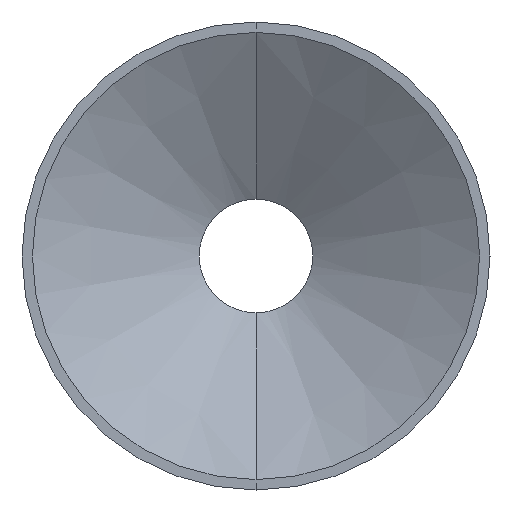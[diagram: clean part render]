
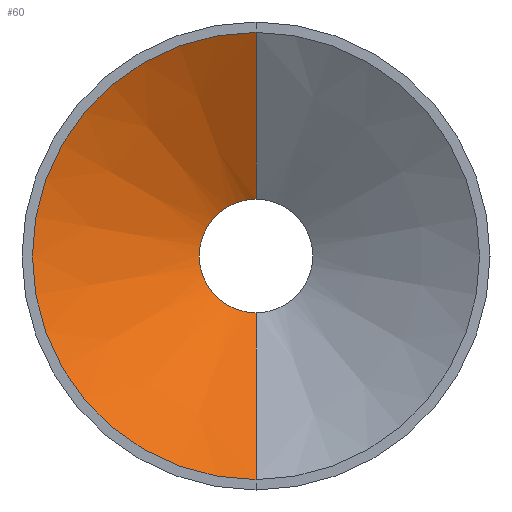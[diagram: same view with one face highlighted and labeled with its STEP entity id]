
A CAD part, front view. The second image highlights one B-rep face of the part: STEP entity #60.
In plain terms, the highlighted conical face has half-angle 58.983 degrees and reference radius 0.85 mm.
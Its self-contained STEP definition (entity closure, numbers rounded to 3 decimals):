
#5 = CARTESIAN_POINT ( 'NONE',  ( 0., 1.5, 0.85 ) ) ;
#19 = VERTEX_POINT ( 'NONE', #197 ) ;
#60 = ADVANCED_FACE ( 'NONE', ( #223 ), #605, .F. ) ;
#100 = VECTOR ( 'NONE', #754, 1000. ) ;
#106 = ORIENTED_EDGE ( 'NONE', *, *, #288, .T. ) ;
#118 = CIRCLE ( 'NONE', #209, 0.85 ) ;
#128 = VECTOR ( 'NONE', #161, 1000. ) ;
#130 = DIRECTION ( 'NONE',  ( 0., 0., -1. ) ) ;
#141 = VERTEX_POINT ( 'NONE', #642 ) ;
#151 = LINE ( 'NONE', #452, #128 ) ;
#161 = DIRECTION ( 'NONE',  ( 0., -0.515, -0.857 ) ) ;
#197 = CARTESIAN_POINT ( 'NONE',  ( 0., 0., 3.345 ) ) ;
#209 = AXIS2_PLACEMENT_3D ( 'NONE', #723, #739, #528 ) ;
#223 = FACE_OUTER_BOUND ( 'NONE', #297, .T. ) ;
#240 = AXIS2_PLACEMENT_3D ( 'NONE', #592, #328, #130 ) ;
#288 = EDGE_CURVE ( 'NONE', #19, #506, #354, .T. ) ;
#297 = EDGE_LOOP ( 'NONE', ( #332, #434, #106, #534 ) ) ;
#323 = AXIS2_PLACEMENT_3D ( 'NONE', #750, #719, #585 ) ;
#328 = DIRECTION ( 'NONE',  ( 0., -1., 0. ) ) ;
#332 = ORIENTED_EDGE ( 'NONE', *, *, #370, .F. ) ;
#354 = CIRCLE ( 'NONE', #240, 3.345 ) ;
#357 = CARTESIAN_POINT ( 'NONE',  ( 0., 1.5, 0.85 ) ) ;
#370 = EDGE_CURVE ( 'NONE', #541, #141, #118, .T. ) ;
#434 = ORIENTED_EDGE ( 'NONE', *, *, #709, .T. ) ;
#452 = CARTESIAN_POINT ( 'NONE',  ( 0., 1.5, -0.85 ) ) ;
#506 = VERTEX_POINT ( 'NONE', #533 ) ;
#528 = DIRECTION ( 'NONE',  ( 0., 0., -1. ) ) ;
#533 = CARTESIAN_POINT ( 'NONE',  ( 0., 0., -3.345 ) ) ;
#534 = ORIENTED_EDGE ( 'NONE', *, *, #668, .F. ) ;
#541 = VERTEX_POINT ( 'NONE', #5 ) ;
#584 = LINE ( 'NONE', #357, #100 ) ;
#585 = DIRECTION ( 'NONE',  ( 0., 0., -1. ) ) ;
#592 = CARTESIAN_POINT ( 'NONE',  ( 0., 0., 0. ) ) ;
#605 = CONICAL_SURFACE ( 'NONE', #323, 0.85, 1.029 ) ;
#642 = CARTESIAN_POINT ( 'NONE',  ( 0., 1.5, -0.85 ) ) ;
#668 = EDGE_CURVE ( 'NONE', #141, #506, #151, .T. ) ;
#709 = EDGE_CURVE ( 'NONE', #541, #19, #584, .T. ) ;
#719 = DIRECTION ( 'NONE',  ( 0., -1., 0. ) ) ;
#723 = CARTESIAN_POINT ( 'NONE',  ( 0., 1.5, 0. ) ) ;
#739 = DIRECTION ( 'NONE',  ( 0., -1., 0. ) ) ;
#750 = CARTESIAN_POINT ( 'NONE',  ( 0., 1.5, 0. ) ) ;
#754 = DIRECTION ( 'NONE',  ( 0., -0.515, 0.857 ) ) ;
